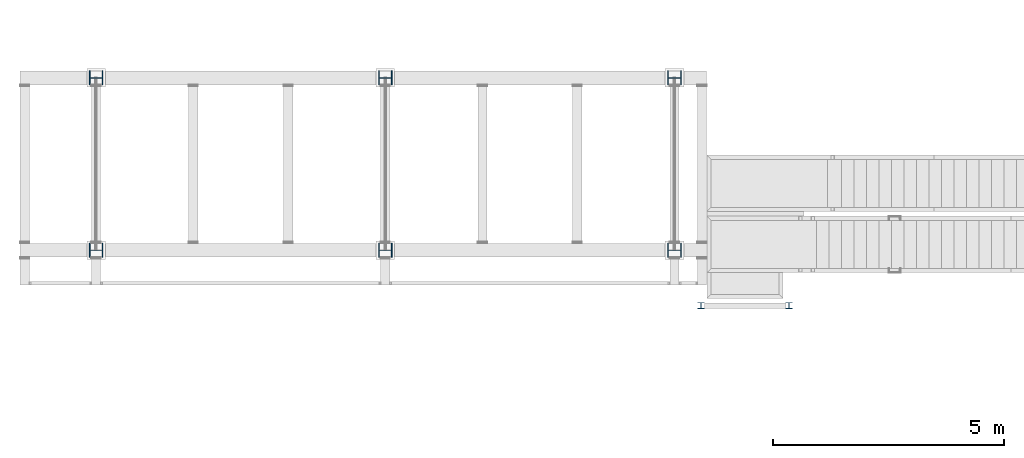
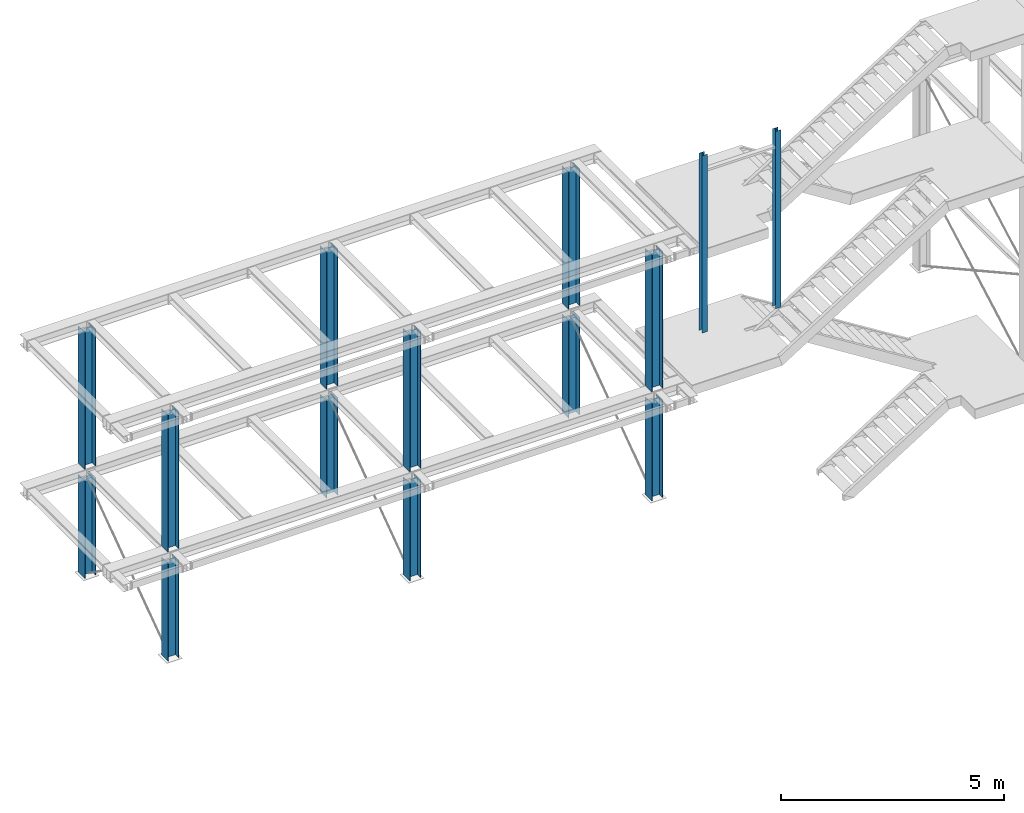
# One storey, part 2 of 24: 14 columns.
"""IFC2X3 building model written with IfcOpenShell, lengths in metres."""

import ifcopenshell
import ifcopenshell.guid

model = None  # the IFC model being written
_history = None  # IfcOwnerHistory: only IFC2X3 demands one
_inside = {}  # id of a spatial element -> (the spatial element, [elements in it])
_under = {}  # id of a project, library or spatial element -> (it, [spatial elements below it])
_declared = {}  # id of a project -> (the project, [libraries it declares])
_typed = {}  # id of a type object -> (the type object, [elements of that type])
_made_of = {}  # id of a material, layer set ... -> (it, [elements and type objects made of it])


def new_model(schema):
    """Start an empty IFC model of exactly this schema.

    Asked for "IFC4X3", IfcOpenShell would pick the latest addendum, in which some entities
    have other attributes; the version numbers below select the first issue.
    IFC2X3 requires an IfcOwnerHistory on every rooted entity: one is made here for all.
    """
    global model, _history
    if schema == "IFC4X3":
        model = ifcopenshell.file(schema_version=(4, 3, 0, 0))
    else:
        model = ifcopenshell.file(schema=schema)
    _inside.clear()
    _under.clear()
    _declared.clear()
    _typed.clear()
    _made_of.clear()
    _history = None
    if model.schema == "IFC2X3":
        org = make("IfcOrganization", Name="unknown")
        user = make(
            "IfcPersonAndOrganization",
            ThePerson=make("IfcPerson", FamilyName="unknown"),
            TheOrganization=org,
        )
        app = make(
            "IfcApplication",
            ApplicationDeveloper=org,
            Version="unknown",
            ApplicationFullName="unknown",
            ApplicationIdentifier="unknown",
        )
        _history = make(
            "IfcOwnerHistory",
            OwningUser=user,
            OwningApplication=app,
            ChangeAction="ADDED",
            CreationDate=0,
        )
    return model


def make(cls, **values):
    """One entity of the class cls with the attributes given. An attribute that is None is left unset."""
    return model.create_entity(
        cls, **{name: value for name, value in values.items() if value is not None}
    )


def entity(cls, *values):
    """Any entity or typed value of the class cls, its attributes in the order of the schema. None: left unset."""
    e = model.create_entity(cls)
    for i, value in enumerate(values):
        if value is not None:
            e[i] = value
    return e


def rooted(cls, **values):
    """An entity with a GlobalId (a new one), such as an element, a storey or a relation."""
    return make(cls, GlobalId=ifcopenshell.guid.new(), OwnerHistory=_history, **values)


def si_unit(unit_type, name, prefix=None):
    """IfcSIUnit, for example si_unit("LENGTHUNIT", "METRE", prefix="MILLI")."""
    return make("IfcSIUnit", UnitType=unit_type, Prefix=prefix, Name=name)


def converted_unit(unit_type, name, factor, base, dimensions=None, offset=None):
    """IfcConversionBasedUnit, such as the inch: factor (a typed value) times the base unit."""
    return make(
        "IfcConversionBasedUnit"
        if offset is None
        else "IfcConversionBasedUnitWithOffset",
        ConversionOffset=offset,
        Dimensions=None
        if dimensions is None
        else entity("IfcDimensionalExponents", *dimensions),
        UnitType=unit_type,
        Name=name,
        ConversionFactor=make(
            "IfcMeasureWithUnit", ValueComponent=factor, UnitComponent=base
        ),
    )


def derived_unit(unit_type, elements):
    """IfcDerivedUnit: a product of units, each with its exponent."""
    return make(
        "IfcDerivedUnit",
        Elements=[
            make("IfcDerivedUnitElement", Unit=unit, Exponent=power)
            for unit, power in elements
        ],
        UnitType=unit_type,
    )


def assignment(units):
    """IfcUnitAssignment: the units of a project."""
    return None if units is None else make("IfcUnitAssignment", Units=units)


def point(xyz):
    """IfcCartesianPoint."""
    return None if xyz is None else make("IfcCartesianPoint", Coordinates=xyz)


def direction(xyz):
    """IfcDirection."""
    return None if xyz is None else make("IfcDirection", DirectionRatios=xyz)


def frame(location, z_axis=None, x_axis=None):
    """IfcAxis2Placement3D, a coordinate frame: its origin and axes. An axis left out is left unset."""
    return make(
        "IfcAxis2Placement3D",
        Location=point(location),
        Axis=direction(z_axis),
        RefDirection=direction(x_axis),
    )


def origin():
    """The frame at (0, 0, 0) with its axes left unset."""
    return frame((0.0, 0.0, 0.0))


def origin_with_axes():
    """The frame at (0, 0, 0) with the z axis (0, 0, 1) and the x axis (1, 0, 0) written out."""
    return frame((0.0, 0.0, 0.0), z_axis=(0.0, 0.0, 1.0), x_axis=(1.0, 0.0, 0.0))


def place(relative_to, where):
    """IfcLocalPlacement: puts the frame where relative to a parent placement (None: the world)."""
    return make(
        "IfcLocalPlacement", PlacementRelTo=relative_to, RelativePlacement=where
    )


def context(
    kind, dimensions, precision=None, world=None, true_north=None, identifier=None
):
    """IfcGeometricRepresentationContext, for example the 3D "Model" context."""
    return make(
        "IfcGeometricRepresentationContext",
        ContextIdentifier=identifier,
        ContextType=kind,
        CoordinateSpaceDimension=dimensions,
        Precision=precision,
        WorldCoordinateSystem=world,
        TrueNorth=true_north,
    )


def subcontext(parent, identifier, kind, view, scale=None):
    """IfcGeometricRepresentationSubContext, for example "Body" below "Model"."""
    return make(
        "IfcGeometricRepresentationSubContext",
        ContextIdentifier=identifier,
        ContextType=kind,
        ParentContext=parent,
        TargetScale=scale,
        TargetView=view,
    )


def project(units=None, contexts=None):
    """IfcProject with its units and contexts."""
    return rooted(
        "IfcProject",
        Name="project",
        RepresentationContexts=contexts,
        UnitsInContext=assignment(units),
    )


def spatial(cls, under=None, at=None, **own):
    """A site, building, storey or space (cls), placed at a placement, below another one or the project."""
    s = rooted(cls, ObjectPlacement=at, **own)
    if under is not None:
        _under.setdefault(under.id(), (under, []))[1].append(s)
    return s


def polyline(points):
    """IfcPolyline through the points."""
    return make("IfcPolyline", Points=[point(p) for p in points])


def outline(outer, holes=None, kind="AREA"):
    """IfcArbitraryClosedProfileDef: a profile drawn as a closed curve; with holes, ...WithVoids."""
    if holes is None:
        return make("IfcArbitraryClosedProfileDef", ProfileType=kind, OuterCurve=outer)
    return make(
        "IfcArbitraryProfileDefWithVoids",
        ProfileType=kind,
        OuterCurve=outer,
        InnerCurves=holes,
    )


def extrude(swept, where, along, depth):
    """IfcExtrudedAreaSolid: the profile swept, set in the frame where, extruded along a direction by depth."""
    return make(
        "IfcExtrudedAreaSolid",
        SweptArea=swept,
        Position=where,
        ExtrudedDirection=direction(along),
        Depth=depth,
    )


def shape(context_of_items, identifier, shape_type, items):
    """IfcShapeRepresentation: the items that make up one representation, for example the "Body"."""
    return make(
        "IfcShapeRepresentation",
        ContextOfItems=context_of_items,
        RepresentationIdentifier=identifier,
        RepresentationType=shape_type,
        Items=items,
    )


def material(Name=None, Category=None):
    """IfcMaterial."""
    return make("IfcMaterial", Name=Name, Category=Category)


def made_of(thing, what):
    """Note that an element or type object is made of a material, layer set ...; save() writes the relation."""
    if what is not None:
        _made_of.setdefault(what.id(), (what, []))[1].append(thing)
    return thing


def element(
    cls,
    number,
    at=None,
    inside=None,
    cuts=None,
    type_object=None,
    material=None,
    context=None,
    identifier="Body",
    shape_type=None,
    held_by="IfcProductDefinitionShape",
    body=None,
    shapes=None,
    **own,
):
    """One element of the class cls, such as IfcWall. Its Tag is "e" and its number.

    at: its placement. inside: the storey or other place that contains it. cuts: it is an
    opening in that element (IfcRelVoidsElement). A single representation is given by context,
    identifier, shape_type and body (its items); several are given by shapes. held_by: the class
    of the entity that holds the representations. save() writes the other relations.
    """
    e = rooted(cls, Tag="e%d" % number, ObjectPlacement=at, **own)
    if body is not None:
        shapes = [shape(context, identifier, shape_type, body)]
    if shapes is not None:
        e.Representation = make(held_by, Representations=shapes)
    if inside is not None:
        _inside.setdefault(inside.id(), (inside, []))[1].append(e)
    if cuts is not None:
        rooted(
            "IfcRelVoidsElement", RelatingBuildingElement=cuts, RelatedOpeningElement=e
        )
    if type_object is not None:
        _typed.setdefault(type_object.id(), (type_object, []))[1].append(e)
    return made_of(e, material)


def aggregate(whole, parts):
    """IfcRelAggregates: a whole, such as a stair, and the parts it consists of."""
    return rooted("IfcRelAggregates", RelatingObject=whole, RelatedObjects=parts)


def save(model, path):
    """Write the relations noted so far, then the file.

    IfcRelAggregates (storeys below a building ...), IfcRelContainedInSpatialStructure (elements
    in a storey), IfcRelDefinesByType, IfcRelAssociatesMaterial and IfcRelDeclares: one each for
    every whole, place, type object, material and project.
    """
    for whole, parts in _under.values():
        aggregate(whole, parts)
    for where, things in _inside.values():
        rooted(
            "IfcRelContainedInSpatialStructure",
            RelatedElements=things,
            RelatingStructure=where,
        )
    for kind, things in _typed.values():
        rooted("IfcRelDefinesByType", RelatedObjects=things, RelatingType=kind)
    for what, things in _made_of.values():
        rooted("IfcRelAssociatesMaterial", RelatedObjects=things, RelatingMaterial=what)
    for by, libraries in _declared.values():
        rooted("IfcRelDeclares", RelatingContext=by, RelatedDefinitions=libraries)
    model.write(path)


model = new_model("IFC2X3")

# Units and contexts
model_context = context("Model", 3, precision=1e-05, world=origin())
body_context = subcontext(model_context, "Body", "Model", "MODEL_VIEW")
ifc_project = project(units=[si_unit("LENGTHUNIT", "METRE"), si_unit("AREAUNIT", "SQUARE_METRE"), si_unit("VOLUMEUNIT", "CUBIC_METRE"), si_unit("MASSUNIT", "GRAM", prefix="KILO"), converted_unit("PLANEANGLEUNIT", "DEGREE", entity("IfcPlaneAngleMeasure", 0.0174532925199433), si_unit("PLANEANGLEUNIT", "RADIAN"), dimensions=[0, 0, 0, 0, 0, 0, 0]), derived_unit("THERMALTRANSMITTANCEUNIT", [(si_unit("POWERUNIT", "WATT"), 1), (si_unit("THERMODYNAMICTEMPERATUREUNIT", "KELVIN"), -1), (si_unit("LENGTHUNIT", "METRE"), -2)]), derived_unit("VOLUMETRICFLOWRATEUNIT", [(si_unit("LENGTHUNIT", "METRE"), 3), (converted_unit("TIMEUNIT", "hour", entity("IfcTimeMeasure", 3600.0), si_unit("TIMEUNIT", "SECOND"), dimensions=[0, 0, 1, 0, 0, 0, 0]), -1), (si_unit("LENGTHUNIT", "METRE"), -1)])], contexts=[model_context])

# Site, building, storey
site_placement = place(None, origin())
site = spatial("IfcSite", under=ifc_project, at=site_placement, Name="TWP_Speiseverteilzentrum SBW VZ II", CompositionType="ELEMENT")
building_placement = place(site_placement, origin())
building = spatial("IfcBuilding", under=site, at=building_placement, Name="Speiseverteilzentrum SBW VZ II", CompositionType="ELEMENT")
storey_placement = place(building_placement, frame((0.0, 0.0, 0.6957)))
storey = spatial("IfcBuildingStorey", under=building, at=storey_placement, Name="EG_Technik_FFB", CompositionType="ELEMENT", Elevation=0.6957)

# Columns
ifc_material_1 = material(Name="S235")
column_1_placement = place(storey_placement, frame((60.145, 87.3249999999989, 0.665), z_axis=(0.0, 0.0, 1.0), x_axis=(1.22464679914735e-16, 1.0, 0.0)))
element("IfcColumn", 1, at=column_1_placement, inside=storey, material=ifc_material_1, Name="Rahmenstiel", context=body_context, shape_type="SweptSolid", body=[
    extrude(outline(polyline([(-0.15, 0.145), (-0.15, 0.131), (-0.00424999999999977, 0.131), (-0.00424999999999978, -0.131), (-0.15, -0.131), (-0.15, -0.145), (0.15, -0.145), (0.15, -0.131), (0.00425000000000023, -0.131), (0.00425000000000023, 0.131), (0.15, 0.131), (0.15, 0.145), (-0.15, 0.145)])), frame((0.15, 0.145, 0.0), z_axis=(0.0, 0.0, 1.0), x_axis=(1.0, 0.0, 0.0)), (0.0, 0.0, 1.0), 2.66),
])
ifc_material_2 = material(Name="S235")
column_2_placement = place(storey_placement, frame((60.145, 91.0499999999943, 0.665), z_axis=(0.0, 0.0, 1.0), x_axis=(1.22464679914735e-16, 1.0, 0.0)))
element("IfcColumn", 2, at=column_2_placement, inside=storey, material=ifc_material_2, Name="Rahmenstiel", context=body_context, shape_type="SweptSolid", body=[
    extrude(outline(polyline([(-0.15, 0.145), (-0.15, 0.131), (-0.00424999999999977, 0.131), (-0.00424999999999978, -0.131), (-0.15, -0.131), (-0.15, -0.145), (0.15, -0.145), (0.15, -0.131), (0.00425000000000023, -0.131), (0.00425000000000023, 0.131), (0.15, 0.131), (0.15, 0.145), (-0.15, 0.145)])), frame((0.15, 0.145, 0.0), z_axis=(0.0, 0.0, 1.0), x_axis=(1.0, 0.0, 0.0)), (0.0, 0.0, 1.0), 2.66),
])
ifc_material_3 = material(Name="S235")
column_3_placement = place(storey_placement, frame((60.145, 91.0499999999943, 3.645), z_axis=(0.0, 0.0, 1.0), x_axis=(1.22464679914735e-16, 1.0, 0.0)))
element("IfcColumn", 3, at=column_3_placement, inside=storey, material=ifc_material_3, Name="Rahmenstiel", context=body_context, shape_type="SweptSolid", body=[
    extrude(outline(polyline([(-0.15, 0.145), (-0.15, 0.131), (-0.00424999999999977, 0.131), (-0.00424999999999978, -0.131), (-0.15, -0.131), (-0.15, -0.145), (0.15, -0.145), (0.15, -0.131), (0.00425000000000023, -0.131), (0.00425000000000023, 0.131), (0.15, 0.131), (0.15, 0.145), (-0.15, 0.145)])), frame((0.15, 0.145, 0.0), z_axis=(0.0, 0.0, 1.0), x_axis=(1.0, 0.0, 0.0)), (0.0, 0.0, 1.0), 3.74),
])
ifc_material_4 = material(Name="S235")
column_4_placement = place(storey_placement, frame((60.145, 87.3249999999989, 3.645), z_axis=(0.0, 0.0, 1.0), x_axis=(1.22464679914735e-16, 1.0, 0.0)))
element("IfcColumn", 4, at=column_4_placement, inside=storey, material=ifc_material_4, Name="Rahmenstiel", context=body_context, shape_type="SweptSolid", body=[
    extrude(outline(polyline([(-0.15, 0.145), (-0.15, 0.131), (-0.00424999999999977, 0.131), (-0.00424999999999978, -0.131), (-0.15, -0.131), (-0.15, -0.145), (0.15, -0.145), (0.15, -0.131), (0.00425000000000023, -0.131), (0.00425000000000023, 0.131), (0.15, 0.131), (0.15, 0.145), (-0.15, 0.145)])), frame((0.15, 0.145, 0.0), z_axis=(0.0, 0.0, 1.0), x_axis=(1.0, 0.0, 0.0)), (0.0, 0.0, 1.0), 3.74),
])
ifc_material_5 = material(Name="S235")
column_5_placement = place(storey_placement, frame((53.895, 87.3249999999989, 0.665), z_axis=(0.0, 0.0, 1.0), x_axis=(1.22464679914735e-16, 1.0, 0.0)))
element("IfcColumn", 5, at=column_5_placement, inside=storey, material=ifc_material_5, Name="Rahmenstiel", context=body_context, shape_type="SweptSolid", body=[
    extrude(outline(polyline([(-0.15, 0.145), (-0.15, 0.131), (-0.00424999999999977, 0.131), (-0.00424999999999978, -0.131), (-0.15, -0.131), (-0.15, -0.145), (0.15, -0.145), (0.15, -0.131), (0.00425000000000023, -0.131), (0.00425000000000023, 0.131), (0.15, 0.131), (0.15, 0.145), (-0.15, 0.145)])), frame((0.15, 0.145, 0.0), z_axis=(0.0, 0.0, 1.0), x_axis=(1.0, 0.0, 0.0)), (0.0, 0.0, 1.0), 2.66),
])
ifc_material_6 = material(Name="S235")
column_6_placement = place(storey_placement, frame((53.895, 91.0499999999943, 0.665), z_axis=(0.0, 0.0, 1.0), x_axis=(1.22464679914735e-16, 1.0, 0.0)))
element("IfcColumn", 6, at=column_6_placement, inside=storey, material=ifc_material_6, Name="Rahmenstiel", context=body_context, shape_type="SweptSolid", body=[
    extrude(outline(polyline([(-0.15, 0.145), (-0.15, 0.131), (-0.00424999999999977, 0.131), (-0.00424999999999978, -0.131), (-0.15, -0.131), (-0.15, -0.145), (0.15, -0.145), (0.15, -0.131), (0.00425000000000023, -0.131), (0.00425000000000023, 0.131), (0.15, 0.131), (0.15, 0.145), (-0.15, 0.145)])), frame((0.15, 0.145, 0.0), z_axis=(0.0, 0.0, 1.0), x_axis=(1.0, 0.0, 0.0)), (0.0, 0.0, 1.0), 2.66),
])
ifc_material_7 = material(Name="S235")
column_7_placement = place(storey_placement, frame((53.895, 91.0499999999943, 3.645), z_axis=(0.0, 0.0, 1.0), x_axis=(1.22464679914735e-16, 1.0, 0.0)))
element("IfcColumn", 7, at=column_7_placement, inside=storey, material=ifc_material_7, Name="Rahmenstiel", context=body_context, shape_type="SweptSolid", body=[
    extrude(outline(polyline([(-0.15, 0.145), (-0.15, 0.131), (-0.00424999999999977, 0.131), (-0.00424999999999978, -0.131), (-0.15, -0.131), (-0.15, -0.145), (0.15, -0.145), (0.15, -0.131), (0.00425000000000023, -0.131), (0.00425000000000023, 0.131), (0.15, 0.131), (0.15, 0.145), (-0.15, 0.145)])), frame((0.15, 0.145, 0.0), z_axis=(0.0, 0.0, 1.0), x_axis=(1.0, 0.0, 0.0)), (0.0, 0.0, 1.0), 3.74),
])
ifc_material_8 = material(Name="S235")
column_8_placement = place(storey_placement, frame((53.895, 87.3249999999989, 3.645), z_axis=(0.0, 0.0, 1.0), x_axis=(1.22464679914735e-16, 1.0, 0.0)))
element("IfcColumn", 8, at=column_8_placement, inside=storey, material=ifc_material_8, Name="Rahmenstiel", context=body_context, shape_type="SweptSolid", body=[
    extrude(outline(polyline([(-0.15, 0.145), (-0.15, 0.131), (-0.00424999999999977, 0.131), (-0.00424999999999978, -0.131), (-0.15, -0.131), (-0.15, -0.145), (0.15, -0.145), (0.15, -0.131), (0.00425000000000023, -0.131), (0.00425000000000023, 0.131), (0.15, 0.131), (0.15, 0.145), (-0.15, 0.145)])), frame((0.15, 0.145, 0.0), z_axis=(0.0, 0.0, 1.0), x_axis=(1.0, 0.0, 0.0)), (0.0, 0.0, 1.0), 3.74),
])
ifc_material_9 = material(Name="S235")
column_9_placement = place(storey_placement, frame((47.645, 87.3249999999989, 0.665), z_axis=(0.0, 0.0, 1.0), x_axis=(1.22464679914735e-16, 1.0, 0.0)))
element("IfcColumn", 9, at=column_9_placement, inside=storey, material=ifc_material_9, Name="Rahmenstiel", context=body_context, shape_type="SweptSolid", body=[
    extrude(outline(polyline([(-0.15, 0.145), (-0.15, 0.131), (-0.00424999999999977, 0.131), (-0.00424999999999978, -0.131), (-0.15, -0.131), (-0.15, -0.145), (0.15, -0.145), (0.15, -0.131), (0.00425000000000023, -0.131), (0.00425000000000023, 0.131), (0.15, 0.131), (0.15, 0.145), (-0.15, 0.145)])), frame((0.15, 0.145, 0.0), z_axis=(0.0, 0.0, 1.0), x_axis=(1.0, 0.0, 0.0)), (0.0, 0.0, 1.0), 2.66),
])
ifc_material_10 = material(Name="S235")
column_10_placement = place(storey_placement, frame((47.645, 91.0499999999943, 0.665), z_axis=(0.0, 0.0, 1.0), x_axis=(1.22464679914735e-16, 1.0, 0.0)))
element("IfcColumn", 10, at=column_10_placement, inside=storey, material=ifc_material_10, Name="Rahmenstiel", context=body_context, shape_type="SweptSolid", body=[
    extrude(outline(polyline([(-0.15, 0.145), (-0.15, 0.131), (-0.00424999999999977, 0.131), (-0.00424999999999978, -0.131), (-0.15, -0.131), (-0.15, -0.145), (0.15, -0.145), (0.15, -0.131), (0.00425000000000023, -0.131), (0.00425000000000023, 0.131), (0.15, 0.131), (0.15, 0.145), (-0.15, 0.145)])), frame((0.15, 0.145, 0.0), z_axis=(0.0, 0.0, 1.0), x_axis=(1.0, 0.0, 0.0)), (0.0, 0.0, 1.0), 2.66),
])
ifc_material_11 = material(Name="S235")
column_11_placement = place(storey_placement, frame((47.645, 91.0499999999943, 3.645), z_axis=(0.0, 0.0, 1.0), x_axis=(1.22464679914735e-16, 1.0, 0.0)))
element("IfcColumn", 11, at=column_11_placement, inside=storey, material=ifc_material_11, Name="Rahmenstiel", context=body_context, shape_type="SweptSolid", body=[
    extrude(outline(polyline([(-0.15, 0.145), (-0.15, 0.131), (-0.00424999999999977, 0.131), (-0.00424999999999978, -0.131), (-0.15, -0.131), (-0.15, -0.145), (0.15, -0.145), (0.15, -0.131), (0.00425000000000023, -0.131), (0.00425000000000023, 0.131), (0.15, 0.131), (0.15, 0.145), (-0.15, 0.145)])), frame((0.15, 0.145, 0.0), z_axis=(0.0, 0.0, 1.0), x_axis=(1.0, 0.0, 0.0)), (0.0, 0.0, 1.0), 3.74),
])
ifc_material_12 = material(Name="S235")
column_12_placement = place(storey_placement, frame((47.645, 87.3249999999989, 3.645), z_axis=(0.0, 0.0, 1.0), x_axis=(1.22464679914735e-16, 1.0, 0.0)))
element("IfcColumn", 12, at=column_12_placement, inside=storey, material=ifc_material_12, Name="Rahmenstiel", context=body_context, shape_type="SweptSolid", body=[
    extrude(outline(polyline([(-0.15, 0.145), (-0.15, 0.131), (-0.00424999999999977, 0.131), (-0.00424999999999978, -0.131), (-0.15, -0.131), (-0.15, -0.145), (0.15, -0.145), (0.15, -0.131), (0.00425000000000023, -0.131), (0.00425000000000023, 0.131), (0.15, 0.131), (0.15, 0.145), (-0.15, 0.145)])), frame((0.15, 0.145, 0.0), z_axis=(0.0, 0.0, 1.0), x_axis=(1.0, 0.0, 0.0)), (0.0, 0.0, 1.0), 3.74),
])
ifc_material_13 = material(Name="Stahl")
column_13_placement = place(storey_placement, frame((60.5050017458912, 86.2094999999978, 5.7)))
element("IfcColumn", 13, at=column_13_placement, inside=storey, material=ifc_material_13, Name="Stahlstütze", context=body_context, shape_type="SweptSolid", body=[
    extrude(outline(polyline([(0.0, 0.1245), (0.06725, 0.1245), (0.06725, 0.0085), (0.0, 0.0085), (0.0, 0.0), (0.14, 0.0), (0.14, 0.0085), (0.07275, 0.0085), (0.07275, 0.1245), (0.14, 0.1245), (0.14, 0.133), (0.0, 0.133), (0.0, 0.1245)])), origin_with_axes(), (0.0, 0.0, 1.0), 4.84),
])
ifc_material_14 = material(Name="Stahl")
column_14_placement = place(storey_placement, frame((62.4050017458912, 86.2094999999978, 5.7)))
element("IfcColumn", 14, at=column_14_placement, inside=storey, material=ifc_material_14, Name="Stahlstütze", context=body_context, shape_type="SweptSolid", body=[
    extrude(outline(polyline([(0.0, 0.1245), (0.06725, 0.1245), (0.06725, 0.0085), (0.0, 0.0085), (0.0, 0.0), (0.14, 0.0), (0.14, 0.0085), (0.07275, 0.0085), (0.07275, 0.1245), (0.14, 0.1245), (0.14, 0.133), (0.0, 0.133), (0.0, 0.1245)])), origin_with_axes(), (0.0, 0.0, 1.0), 4.84),
])

save(model, "model.ifc")
